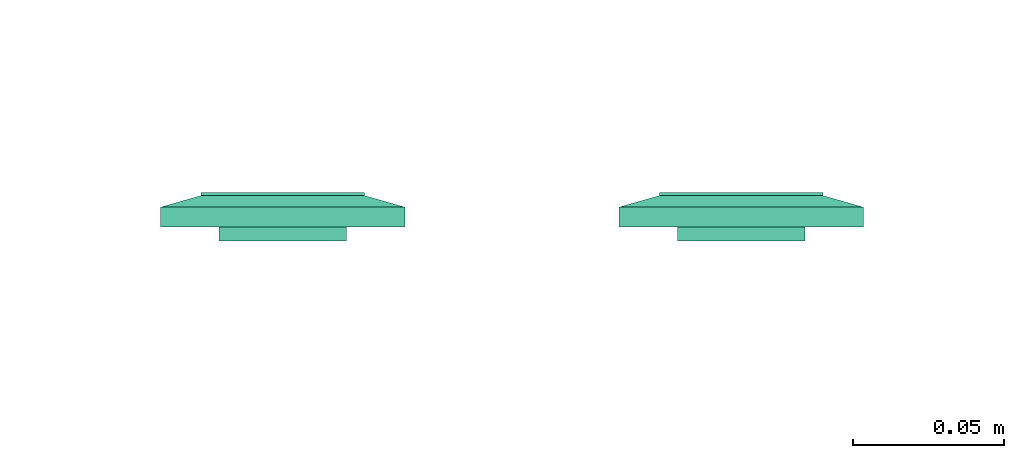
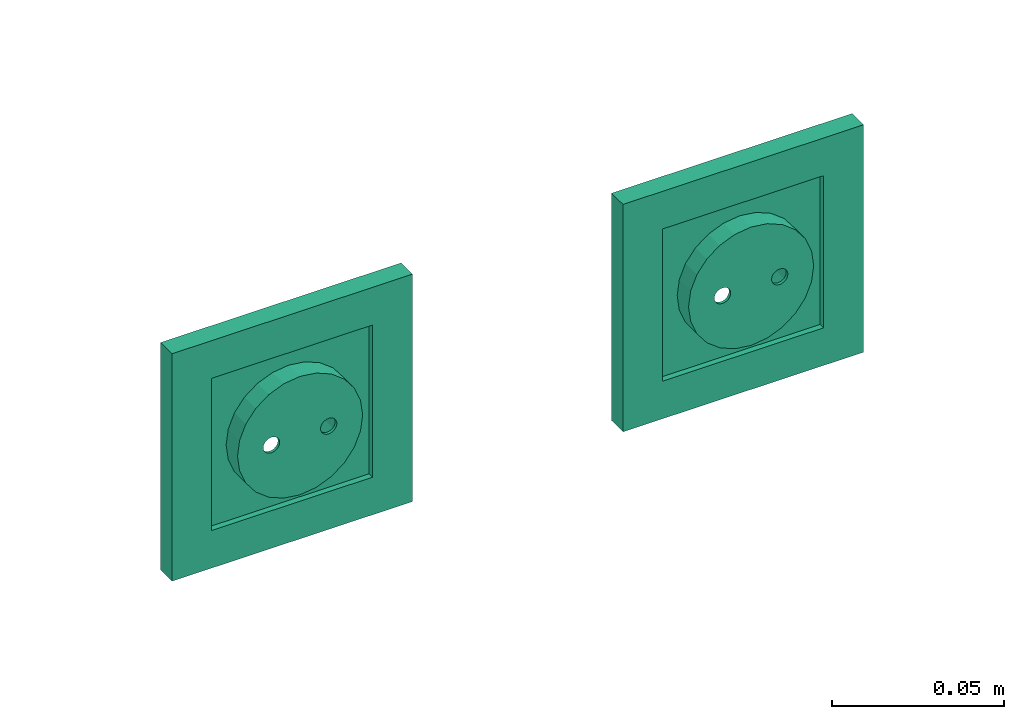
# One storey, part 75 of 146: 2 flow terminals.
"""IFC2X3 building model written with IfcOpenShell, lengths in metres."""

from ifc_helpers import new_model, entity, si_unit, converted_unit, derived_unit, direction, frame, origin, place, context, subcontext, project, spatial, face_set, surface_model, source, transform, mapped, type_object, type_shapes, element, save


model = new_model("IFC2X3")

# Units and contexts
model_context = context("Model", 3, precision=1e-05, world=origin(), true_north=direction((6.12303176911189e-17, 1.0)))
body_context = subcontext(model_context, "Body", "Model", "MODEL_VIEW")
ifc_project = project(units=[si_unit("LENGTHUNIT", "METRE"), si_unit("AREAUNIT", "SQUARE_METRE"), si_unit("VOLUMEUNIT", "CUBIC_METRE"), converted_unit("PLANEANGLEUNIT", "DEGREE", entity("IfcRatioMeasure", 0.0174532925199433), si_unit("PLANEANGLEUNIT", "RADIAN"), dimensions=[0, 0, 0, 0, 0, 0, 0]), si_unit("MASSUNIT", "GRAM", prefix="KILO"), derived_unit("MASSDENSITYUNIT", [(si_unit("MASSUNIT", "GRAM", prefix="KILO"), 1), (si_unit("LENGTHUNIT", "METRE"), -3)]), si_unit("TIMEUNIT", "SECOND"), si_unit("FREQUENCYUNIT", "HERTZ"), si_unit("THERMODYNAMICTEMPERATUREUNIT", "DEGREE_CELSIUS"), derived_unit("THERMALTRANSMITTANCEUNIT", [(si_unit("MASSUNIT", "GRAM", prefix="KILO"), 1), (si_unit("THERMODYNAMICTEMPERATUREUNIT", "KELVIN"), -1), (si_unit("TIMEUNIT", "SECOND"), -3)]), derived_unit("VOLUMETRICFLOWRATEUNIT", [(si_unit("LENGTHUNIT", "METRE"), 3), (si_unit("TIMEUNIT", "SECOND"), -1)]), si_unit("ELECTRICCURRENTUNIT", "AMPERE"), si_unit("ELECTRICVOLTAGEUNIT", "VOLT"), si_unit("POWERUNIT", "WATT"), si_unit("FORCEUNIT", "NEWTON"), si_unit("ILLUMINANCEUNIT", "LUX"), si_unit("LUMINOUSFLUXUNIT", "LUMEN"), si_unit("LUMINOUSINTENSITYUNIT", "CANDELA"), derived_unit("USERDEFINED", [(si_unit("MASSUNIT", "GRAM", prefix="KILO"), -1), (si_unit("LENGTHUNIT", "METRE"), -2), (si_unit("TIMEUNIT", "SECOND"), 3), (si_unit("LUMINOUSFLUXUNIT", "LUMEN"), 1)]), derived_unit("LINEARVELOCITYUNIT", [(si_unit("LENGTHUNIT", "METRE"), 1), (si_unit("TIMEUNIT", "SECOND"), -1)]), si_unit("PRESSUREUNIT", "PASCAL"), derived_unit("USERDEFINED", [(si_unit("LENGTHUNIT", "METRE"), -2), (si_unit("MASSUNIT", "GRAM", prefix="KILO"), 1), (si_unit("TIMEUNIT", "SECOND"), -2)])], contexts=[model_context])

# Site, building, storey
site_placement = place(None, origin())
site = spatial("IfcSite", under=ifc_project, at=site_placement, Name="Default", CompositionType="ELEMENT")
building_placement = place(site_placement, origin())
building = spatial("IfcBuilding", under=site, at=building_placement, CompositionType="ELEMENT")
storey_placement = place(building_placement, origin())
storey = spatial("IfcBuildingStorey", under=building, at=storey_placement, Name="S01", CompositionType="ELEMENT", Elevation=0.0)

# Flow terminals
light_fixture_type = type_object("IfcLightFixtureType", Name="IP20 ONDULEE", PredefinedType="NOTDEFINED")
shared_shape = source(origin(), body_context, "Body", "SurfaceModel", [
    surface_model("IfcFaceBasedSurfaceModel", [(-0.00225000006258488, 0.0127499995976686, 0.00949633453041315), (0.0, 0.0104999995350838, 0.00949633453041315), (0.0, 0.0115376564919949, 0.0101656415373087), (0.0, 0.0139623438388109, 0.0101656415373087), (0.0, 0.0144589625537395, 0.00984531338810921), (0.0, 0.0121178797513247, 0.0102778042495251), (0.0, 0.0133821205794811, 0.0102778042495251), (0.0, 0.0127499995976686, 0.010399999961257), (0.0, 0.0149999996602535, 0.00949633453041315), (0.00225000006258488, 0.0127499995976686, 0.00949633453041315), (0.0, 0.0110410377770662, 0.00984531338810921), (0.0, 0.0127499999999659, 0.00949633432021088), (0.00225000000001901, 0.0127499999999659, 0.00949633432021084), (0.00217333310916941, 0.0121676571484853, 0.00949633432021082), (0.00194855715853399, 0.0116249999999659, 0.00949633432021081), (0.00159099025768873, 0.0111590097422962, 0.00949633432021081), (0.001125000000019, 0.010801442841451, 0.00949633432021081), (0.00058234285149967, 0.0105766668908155, 0.00949633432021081), (0.0, 0.0104999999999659, 0.00949633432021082), (-0.000582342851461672, 0.0105766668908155, 0.00949633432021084), (-0.001124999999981, 0.010801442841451, 0.00949633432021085), (-0.00159099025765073, 0.0111590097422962, 0.00949633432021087), (-0.00194855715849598, 0.011624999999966, 0.00949633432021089), (-0.0021733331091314, 0.0121676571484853, 0.00949633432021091), (-0.00224999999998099, 0.012749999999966, 0.00949633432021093), (-0.00217333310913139, 0.0133323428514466, 0.00949633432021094), (-0.00194855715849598, 0.013874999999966, 0.00949633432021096), (-0.00159099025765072, 0.0143409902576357, 0.00949633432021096), (-0.00112499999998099, 0.0146985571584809, 0.00949633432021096), (-0.00058234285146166, 0.0149233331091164, 0.00949633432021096), (0.0, 0.0149999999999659, 0.00949633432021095), (0.000582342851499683, 0.0149233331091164, 0.00949633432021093), (0.00112500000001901, 0.0146985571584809, 0.00949633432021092), (0.00159099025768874, 0.0143409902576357, 0.00949633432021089), (0.001948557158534, 0.0138749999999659, 0.00949633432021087), (0.00217333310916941, 0.0133323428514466, 0.00949633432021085), (0.00225000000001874, 0.0127499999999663, -0.00360000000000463), (0.00217333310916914, 0.0121676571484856, -0.00360000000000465), (0.00194855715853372, 0.0116249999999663, -0.00360000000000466), (0.00159099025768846, 0.0111590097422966, -0.00360000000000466), (0.00112500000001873, 0.0108014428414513, -0.00360000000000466), (0.000582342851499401, 0.0105766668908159, -0.00360000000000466), (0.0, 0.0104999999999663, -0.00360000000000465), (-0.000582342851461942, 0.0105766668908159, -0.00360000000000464), (-0.00112499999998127, 0.0108014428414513, -0.00360000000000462), (-0.001590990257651, 0.0111590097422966, -0.0036000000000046), (-0.00194855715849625, 0.0116249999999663, -0.00360000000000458), (-0.00217333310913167, 0.0121676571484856, -0.00360000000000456), (-0.00224999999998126, 0.0127499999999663, -0.00360000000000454), (-0.00217333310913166, 0.013332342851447, -0.00360000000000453), (-0.00194855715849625, 0.0138749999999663, -0.00360000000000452), (-0.00159099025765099, 0.014340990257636, -0.00360000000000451), (-0.00112499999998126, 0.0146985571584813, -0.00360000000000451), (-0.000582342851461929, 0.0149233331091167, -0.00360000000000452), (0.0, 0.0149999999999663, -0.00360000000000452), (0.000582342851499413, 0.0149233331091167, -0.00360000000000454), (0.00112500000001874, 0.0146985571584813, -0.00360000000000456), (0.00159099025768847, 0.014340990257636, -0.00360000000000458), (0.00194855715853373, 0.0138749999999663, -0.0036000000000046), (0.00217333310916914, 0.013332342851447, -0.00360000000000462), (0.0270000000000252, 0.026999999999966, 0.0113999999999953), (-0.0269999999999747, 0.026999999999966, 0.0113999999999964), (-0.0269999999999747, -0.0270000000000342, 0.0113999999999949), (0.0270000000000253, -0.0270000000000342, 0.0113999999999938), (-0.0199999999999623, 0.0, 0.0113999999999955), (-0.0193185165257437, -0.00517638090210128, 0.0113999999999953), (-0.0173205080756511, -0.0100000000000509, 0.0113999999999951), (-0.0141421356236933, -0.0141421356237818, 0.011399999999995), (-0.00999999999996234, -0.0173205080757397, 0.0113999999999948), (-0.00517638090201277, -0.0193185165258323, 0.0113999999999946), (0.0, -0.0200000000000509, 0.0113999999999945), (0.00517638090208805, -0.0193185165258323, 0.0113999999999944), (0.0100000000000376, -0.0173205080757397, 0.0113999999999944), (0.0141421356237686, -0.0141421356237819, 0.0113999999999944), (0.0173205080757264, -0.010000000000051, 0.0113999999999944), (0.0193185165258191, -0.00517638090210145, 0.0113999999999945), (0.0200000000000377, 0.0, 0.0113999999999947), (0.0193185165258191, 0.00517638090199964, 0.0113999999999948), (0.0173205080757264, 0.0099999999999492, 0.011399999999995), (0.0141421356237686, 0.0141421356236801, 0.0113999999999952), (0.0100000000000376, 0.0173205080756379, 0.0113999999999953), (0.00517638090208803, 0.0193185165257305, 0.0113999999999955), (0.0, 0.0199999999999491, 0.0113999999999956), (-0.00517638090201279, 0.0193185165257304, 0.0113999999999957), (-0.00999999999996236, 0.0173205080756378, 0.0113999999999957), (-0.0141421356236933, 0.01414213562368, 0.0113999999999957), (-0.0173205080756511, 0.00999999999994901, 0.0113999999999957), (-0.0193185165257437, 0.00517638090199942, 0.0113999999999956), (0.0270000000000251, 0.0269999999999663, 0.00199999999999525), (0.0270000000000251, -0.0270000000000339, 0.00199999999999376), (-0.0269999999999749, -0.0270000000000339, 0.00199999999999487), (-0.0269999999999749, 0.0269999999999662, 0.00199999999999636), (0.0210000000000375, 0.0, 0.00199999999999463), (0.0202844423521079, -0.00543519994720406, 0.00199999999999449), (0.0181865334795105, -0.0105000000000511, 0.0019999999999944), (0.0148492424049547, -0.0148492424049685, 0.00199999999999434), (0.0105000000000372, -0.0181865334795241, 0.00199999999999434), (0.0054351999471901, -0.0202844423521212, 0.00199999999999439), (0.0, -0.0210000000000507, 0.00199999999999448), (-0.00543519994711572, -0.020284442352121, 0.00199999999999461), (-0.0104999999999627, -0.0181865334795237, 0.00199999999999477), (-0.0148492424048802, -0.014849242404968, 0.00199999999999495), (-0.0181865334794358, -0.0105000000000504, 0.00199999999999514), (-0.020284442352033, -0.00543519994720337, 0.00199999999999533), (-0.0209999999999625, 0.0, 0.00199999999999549), (-0.0202844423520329, 0.0054351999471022, 0.00199999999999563), (-0.0181865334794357, 0.0104999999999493, 0.00199999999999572), (-0.01484924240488, 0.0148492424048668, 0.00199999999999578), (-0.0104999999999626, 0.0181865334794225, 0.00199999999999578), (-0.00543519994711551, 0.0202844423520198, 0.00199999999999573), (0.0, 0.0209999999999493, 0.00199999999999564), (0.00543519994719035, 0.0202844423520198, 0.00199999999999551), (0.0105000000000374, 0.0181865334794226, 0.00199999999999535), (0.0148492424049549, 0.0148492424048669, 0.00199999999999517), (0.0181865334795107, 0.0104999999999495, 0.00199999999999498), (0.0202844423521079, 0.00543519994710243, 0.00199999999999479), (0.0200000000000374, 0.0, -0.00360000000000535), (0.0193185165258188, -0.00517638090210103, -0.00360000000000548), (0.0173205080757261, -0.0100000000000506, -0.00360000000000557), (0.0141421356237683, -0.0141421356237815, -0.00360000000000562), (0.0100000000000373, -0.0173205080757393, -0.00360000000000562), (0.00517638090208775, -0.0193185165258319, -0.00360000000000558), (0.0, -0.0200000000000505, -0.00360000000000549), (-0.00517638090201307, -0.0193185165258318, -0.00360000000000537), (-0.00999999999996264, -0.0173205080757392, -0.00360000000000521), (-0.0141421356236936, -0.0141421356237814, -0.00360000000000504), (-0.0173205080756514, -0.0100000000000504, -0.00360000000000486), (-0.019318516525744, -0.00517638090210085, -0.00360000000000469), (-0.0199999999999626, 0.0, -0.00360000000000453), (-0.0193185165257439, 0.00517638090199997, -0.0036000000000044), (-0.0173205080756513, 0.00999999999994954, -0.00360000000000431), (-0.0141421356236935, 0.0141421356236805, -0.00360000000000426), (-0.00999999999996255, 0.0173205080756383, -0.00360000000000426), (-0.00517638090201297, 0.0193185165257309, -0.0036000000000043), (0.0, 0.0199999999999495, -0.00360000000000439), (0.00517638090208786, 0.0193185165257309, -0.00360000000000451), (0.0100000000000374, 0.0173205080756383, -0.00360000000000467), (0.0141421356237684, 0.0141421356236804, -0.00360000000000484), (0.0173205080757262, 0.0099999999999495, -0.00360000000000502), (0.0193185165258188, 0.00517638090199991, -0.00360000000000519), (-0.0123499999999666, 0.0, -0.00360000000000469), (-0.0122562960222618, -0.000711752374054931, -0.00360000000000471), (-0.0119815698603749, -0.00137500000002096, -0.00360000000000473), (-0.0115445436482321, -0.00194454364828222, -0.00360000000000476), (-0.0109749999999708, -0.00238156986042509, -0.00360000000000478), (-0.0103117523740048, -0.00265629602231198, -0.0036000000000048), (-0.00959999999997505, -0.00275000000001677, -0.00360000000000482), (-0.0088882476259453, -0.00265629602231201, -0.00360000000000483), (-0.00822499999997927, -0.00238156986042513, -0.00360000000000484), (-0.00765545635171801, -0.00194454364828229, -0.00360000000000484), (-0.00721843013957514, -0.00137500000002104, -0.00360000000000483), (-0.00694370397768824, -0.000711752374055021, -0.00360000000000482), (-0.00684999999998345, 0.0, -0.0036000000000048), (-0.00694370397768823, 0.000711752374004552, -0.00360000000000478), (-0.00721843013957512, 0.00137499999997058, -0.00360000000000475), (-0.00765545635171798, 0.00194454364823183, -0.00360000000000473), (-0.00822499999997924, 0.00238156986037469, -0.0036000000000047), (-0.00888824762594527, 0.00265629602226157, -0.00360000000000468), (-0.00959999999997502, 0.00274999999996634, -0.00360000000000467), (-0.0103117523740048, 0.00265629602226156, -0.00360000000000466), (-0.0109749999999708, 0.00238156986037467, -0.00360000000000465), (-0.011544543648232, 0.00194454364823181, -0.00360000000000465), (-0.0119815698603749, 0.00137499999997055, -0.00360000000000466), (-0.0122562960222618, 0.000711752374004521, -0.00360000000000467), (0.00685000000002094, 0.0, -0.00360000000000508), (0.0069437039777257, -0.00071175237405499, -0.0036000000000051), (0.00721843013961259, -0.00137500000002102, -0.00360000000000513), (0.00765545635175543, -0.00194454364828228, -0.00360000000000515), (0.00822500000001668, -0.00238156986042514, -0.00360000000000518), (0.00888824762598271, -0.00265629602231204, -0.0036000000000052), (0.00960000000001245, -0.00275000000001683, -0.00360000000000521), (0.0103117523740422, -0.00265629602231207, -0.00360000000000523), (0.0109750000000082, -0.00238156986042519, -0.00360000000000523), (0.0115445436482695, -0.00194454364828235, -0.00360000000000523), (0.0119815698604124, -0.0013750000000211, -0.00360000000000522), (0.0122562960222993, -0.00071175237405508, -0.00360000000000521), (0.012350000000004, 0.0, -0.00360000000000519), (0.0122562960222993, 0.000711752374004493, -0.00360000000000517), (0.0119815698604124, 0.00137499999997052, -0.00360000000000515), (0.0115445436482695, 0.00194454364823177, -0.00360000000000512), (0.0109750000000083, 0.00238156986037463, -0.0036000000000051), (0.0103117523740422, 0.00265629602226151, -0.00360000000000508), (0.00960000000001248, 0.00274999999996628, -0.00360000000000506), (0.00888824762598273, 0.0026562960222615, -0.00360000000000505), (0.0082250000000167, 0.00238156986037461, -0.00360000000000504), (0.00765545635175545, 0.00194454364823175, -0.00360000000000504), (0.0072184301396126, 0.00137499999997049, -0.00360000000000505), (0.00694370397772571, 0.000711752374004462, -0.00360000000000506), (0.0210000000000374, 0.0, -0.00460000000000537), (0.0202844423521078, -0.00543519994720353, -0.00460000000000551), (0.0181865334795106, -0.0105000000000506, -0.0046000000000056), (0.0148492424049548, -0.0148492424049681, -0.00460000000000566), (0.0105000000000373, -0.0181865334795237, -0.00460000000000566), (0.00543519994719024, -0.0202844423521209, -0.00460000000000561), (0.0, -0.0210000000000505, -0.00460000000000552), (-0.00543519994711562, -0.0202844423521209, -0.00460000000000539), (-0.0104999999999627, -0.0181865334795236, -0.00460000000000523), (-0.0148492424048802, -0.0148492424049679, -0.00460000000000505), (-0.0181865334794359, -0.0105000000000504, -0.00460000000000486), (-0.0202844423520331, -0.00543519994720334, -0.00460000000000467), (-0.0209999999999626, 0.0, -0.00460000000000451), (-0.020284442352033, 0.00543519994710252, -0.00460000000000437), (-0.0181865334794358, 0.0104999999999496, -0.00460000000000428), (-0.0148492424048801, 0.0148492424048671, -0.00460000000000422), (-0.0104999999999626, 0.0181865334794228, -0.00460000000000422), (-0.00543519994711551, 0.02028444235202, -0.00460000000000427), (0.0, 0.0209999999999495, -0.00460000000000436), (0.00543519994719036, 0.02028444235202, -0.00460000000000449), (0.0105000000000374, 0.0181865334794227, -0.00460000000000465), (0.0148492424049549, 0.014849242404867, -0.00460000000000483), (0.0181865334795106, 0.0104999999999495, -0.00460000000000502), (0.0202844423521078, 0.00543519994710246, -0.00460000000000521), (-0.00684999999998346, 0.0, -0.0046000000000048), (-0.00694370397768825, 0.000711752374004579, -0.00460000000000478), (-0.00721843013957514, 0.00137499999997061, -0.00460000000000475), (-0.007655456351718, 0.00194454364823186, -0.00460000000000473), (-0.00822499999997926, 0.00238156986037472, -0.0046000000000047), (-0.00888824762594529, 0.0026562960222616, -0.00460000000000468), (-0.00959999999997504, 0.00274999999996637, -0.00460000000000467), (-0.0103117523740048, 0.00265629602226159, -0.00460000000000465), (-0.0109749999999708, 0.0023815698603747, -0.00460000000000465), (-0.0115445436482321, 0.00194454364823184, -0.00460000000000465), (-0.0119815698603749, 0.00137499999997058, -0.00460000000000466), (-0.0122562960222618, 0.000711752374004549, -0.00460000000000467), (-0.0123499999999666, 0.0, -0.00460000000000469), (-0.0122562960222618, -0.000711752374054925, -0.00460000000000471), (-0.0119815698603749, -0.00137500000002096, -0.00460000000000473), (-0.0115445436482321, -0.00194454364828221, -0.00460000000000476), (-0.0109749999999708, -0.00238156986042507, -0.00460000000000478), (-0.0103117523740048, -0.00265629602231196, -0.0046000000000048), (-0.00959999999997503, -0.00275000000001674, -0.00460000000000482), (-0.00888824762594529, -0.00265629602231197, -0.00460000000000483), (-0.00822499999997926, -0.00238156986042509, -0.00460000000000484), (-0.007655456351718, -0.00194454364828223, -0.00460000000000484), (-0.00721843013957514, -0.00137500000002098, -0.00460000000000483), (-0.00694370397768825, -0.000711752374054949, -0.00460000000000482), (0.012350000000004, 0.0, -0.00460000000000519), (0.0122562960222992, 0.000711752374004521, -0.00460000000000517), (0.0119815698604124, 0.00137499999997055, -0.00460000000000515), (0.0115445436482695, 0.0019445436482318, -0.00460000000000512), (0.0109750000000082, 0.00238156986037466, -0.0046000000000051), (0.0103117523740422, 0.00265629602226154, -0.00460000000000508), (0.00960000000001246, 0.00274999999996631, -0.00460000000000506), (0.00888824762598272, 0.00265629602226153, -0.00460000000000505), (0.00822500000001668, 0.00238156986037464, -0.00460000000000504), (0.00765545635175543, 0.00194454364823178, -0.00460000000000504), (0.00721843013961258, 0.00137499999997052, -0.00460000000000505), (0.00694370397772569, 0.00071175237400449, -0.00460000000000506), (0.00685000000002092, 0.0, -0.00460000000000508), (0.00694370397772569, -0.000711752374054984, -0.0046000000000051), (0.00721843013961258, -0.00137500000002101, -0.00460000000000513), (0.00765545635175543, -0.00194454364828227, -0.00460000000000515), (0.00822500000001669, -0.00238156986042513, -0.00460000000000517), (0.00888824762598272, -0.00265629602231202, -0.0046000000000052), (0.00960000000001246, -0.0027500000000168, -0.00460000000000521), (0.0103117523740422, -0.00265629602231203, -0.00460000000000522), (0.0109750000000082, -0.00238156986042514, -0.00460000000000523), (0.0115445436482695, -0.00194454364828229, -0.00460000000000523), (0.0119815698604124, -0.00137500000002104, -0.00460000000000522), (0.0122562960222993, -0.000711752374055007, -0.00460000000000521), (0.040350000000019, 0.0403499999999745, 0.00659999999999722), (0.040350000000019, -0.0403500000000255, 0.00659999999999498), (-0.0403499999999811, -0.0403500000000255, 0.00659999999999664), (-0.0403499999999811, 0.0403499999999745, 0.00659999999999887), (0.027000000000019, 0.0269999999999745, 0.00659999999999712), (-0.0269999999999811, 0.0269999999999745, 0.00659999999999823), (-0.026999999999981, -0.0270000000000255, 0.00659999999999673), (0.027000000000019, -0.0270000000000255, 0.00659999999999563), (0.027000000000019, 0.0269999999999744, 0.0103999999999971), (-0.026999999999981, 0.0269999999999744, 0.0103999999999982), (-0.026999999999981, -0.0270000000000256, 0.0103999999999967), (0.027000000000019, -0.0270000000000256, 0.0103999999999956), (0.040350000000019, 0.0403499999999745, 0.00659999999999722), (0.040350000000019, -0.0403500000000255, 0.00659999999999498), (-0.0403499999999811, -0.0403500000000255, 0.00659999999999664), (-0.0403499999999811, 0.0403499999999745, 0.00659999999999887), (-0.0269999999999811, 0.0269999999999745, 0.00659999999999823), (-0.0269999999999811, -0.0270000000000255, 0.00659999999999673), (0.0270000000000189, -0.0270000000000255, 0.00659999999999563), (0.0270000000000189, 0.0269999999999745, 0.00659999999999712), (0.0403500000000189, 0.0403499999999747, 0.0), (0.0403500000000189, -0.0403500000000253, 0.0), (-0.0403499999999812, -0.0403500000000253, 0.0), (-0.0403499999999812, 0.0403499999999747, 0.0), (0.0270000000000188, 0.0269999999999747, 0.0), (-0.0269999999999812, 0.0269999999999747, 0.0), (-0.0269999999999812, -0.0270000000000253, 0.0), (0.0270000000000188, -0.0270000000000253, 0.0)], [face_set([[[0, 1, 2]], [[3, 4, 2, 5]], [[6, 3, 5, 7]], [[2, 4, 0]], [[4, 8, 0]], [[3, 9, 8]], [[1, 9, 10]], [[2, 3, 6, 7]], [[3, 10, 9]], [[2, 10, 3]], [[11, 1, 0, 8]], [[11, 8, 9, 1]]]), face_set([[[12, 13, 14, 15, 16, 17, 18, 19, 20, 21, 22, 23, 24, 25, 26, 27, 28, 29, 30, 31, 32, 33, 34, 35]], [[36, 37, 38, 39, 40, 41, 42, 43, 44, 45, 46, 47, 48, 49, 50, 51, 52, 53, 54, 55, 56, 57, 58, 59]], [[48, 47, 23, 24]], [[47, 46, 22, 23]], [[45, 44, 20, 21]], [[46, 45, 21, 22]], [[44, 43, 19, 20]], [[18, 19, 43, 42]], [[42, 41, 17, 18]], [[41, 40, 16, 17]], [[39, 38, 14, 15]], [[40, 39, 15, 16]], [[38, 37, 13, 14]], [[12, 13, 37, 36]], [[36, 59, 35, 12]], [[59, 58, 34, 35]], [[57, 56, 32, 33]], [[58, 57, 33, 34]], [[56, 55, 31, 32]], [[30, 31, 55, 54]], [[54, 53, 29, 30]], [[53, 52, 28, 29]], [[51, 50, 26, 27]], [[52, 51, 27, 28]], [[50, 49, 25, 26]], [[24, 25, 49, 48]]]), face_set([[[60, 61, 62, 63], [64, 65, 66, 67, 68, 69, 70, 71, 72, 73, 74, 75, 76, 77, 78, 79, 80, 81, 82, 83, 84, 85, 86, 87]], [[88, 89, 90, 91], [92, 93, 94, 95, 96, 97, 98, 99, 100, 101, 102, 103, 104, 105, 106, 107, 108, 109, 110, 111, 112, 113, 114, 115]], [[61, 60, 88, 91]], [[62, 61, 91, 90]], [[63, 62, 90, 89]], [[60, 63, 89, 88]], [[116, 117, 118, 119, 120, 121, 122, 123, 124, 125, 126, 127, 128, 129, 130, 131, 132, 133, 134, 135, 136, 137, 138, 139], [140, 141, 142, 143, 144, 145, 146, 147, 148, 149, 150, 151, 152, 153, 154, 155, 156, 157, 158, 159, 160, 161, 162, 163], [164, 165, 166, 167, 168, 169, 170, 171, 172, 173, 174, 175, 176, 177, 178, 179, 180, 181, 182, 183, 184, 185, 186, 187]], [[64, 128, 127, 65]], [[65, 127, 126, 66]], [[67, 125, 124, 68]], [[66, 126, 125, 67]], [[68, 124, 123, 69]], [[122, 70, 69, 123]], [[70, 122, 121, 71]], [[71, 121, 120, 72]], [[73, 119, 118, 74]], [[72, 120, 119, 73]], [[74, 118, 117, 75]], [[116, 76, 75, 117]], [[76, 116, 139, 77]], [[77, 139, 138, 78]], [[79, 137, 136, 80]], [[78, 138, 137, 79]], [[80, 136, 135, 81]], [[134, 82, 81, 135]], [[82, 134, 133, 83]], [[83, 133, 132, 84]], [[84, 132, 131, 85]], [[85, 131, 130, 86]], [[130, 129, 87, 86]], [[64, 87, 129, 128]], [[188, 189, 190, 191, 192, 193, 194, 195, 196, 197, 198, 199, 200, 201, 202, 203, 204, 205, 206, 207, 208, 209, 210, 211], [212, 213, 214, 215, 216, 217, 218, 219, 220, 221, 222, 223, 224, 225, 226, 227, 228, 229, 230, 231, 232, 233, 234, 235], [236, 237, 238, 239, 240, 241, 242, 243, 244, 245, 246, 247, 248, 249, 250, 251, 252, 253, 254, 255, 256, 257, 258, 259]], [[200, 199, 103, 104]], [[199, 198, 102, 103]], [[197, 196, 100, 101]], [[198, 197, 101, 102]], [[196, 195, 99, 100]], [[98, 99, 195, 194]], [[194, 193, 97, 98]], [[193, 192, 96, 97]], [[191, 190, 94, 95]], [[192, 191, 95, 96]], [[190, 189, 93, 94]], [[92, 93, 189, 188]], [[188, 211, 115, 92]], [[211, 210, 114, 115]], [[209, 208, 112, 113]], [[210, 209, 113, 114]], [[208, 207, 111, 112]], [[110, 111, 207, 206]], [[206, 205, 109, 110]], [[205, 204, 108, 109]], [[203, 202, 106, 107]], [[204, 203, 107, 108]], [[202, 201, 105, 106]], [[104, 105, 201, 200]], [[141, 225, 226, 142]], [[140, 224, 225, 141]], [[144, 228, 229, 145]], [[143, 227, 228, 144]], [[142, 226, 227, 143]], [[230, 146, 145, 229]], [[149, 233, 232, 148]], [[148, 232, 231, 147]], [[152, 212, 235, 151]], [[151, 235, 234, 150]], [[150, 234, 233, 149]], [[146, 230, 231, 147]], [[154, 214, 213, 153]], [[153, 213, 212, 152]], [[157, 217, 216, 156]], [[156, 216, 215, 155]], [[155, 215, 214, 154]], [[218, 158, 157, 217]], [[160, 220, 221, 161]], [[159, 219, 220, 160]], [[163, 223, 224, 140]], [[162, 222, 223, 163]], [[161, 221, 222, 162]], [[158, 218, 219, 159]], [[166, 250, 249, 165]], [[165, 249, 248, 164]], [[169, 253, 252, 168]], [[168, 252, 251, 167]], [[167, 251, 250, 166]], [[254, 170, 169, 253]], [[172, 256, 257, 173]], [[171, 255, 256, 172]], [[175, 259, 236, 176]], [[174, 258, 259, 175]], [[173, 257, 258, 174]], [[170, 254, 255, 171]], [[177, 237, 238, 178]], [[176, 236, 237, 177]], [[180, 240, 241, 181]], [[179, 239, 240, 180]], [[178, 238, 239, 179]], [[242, 182, 181, 241]], [[185, 245, 244, 184]], [[184, 244, 243, 183]], [[164, 248, 247, 187]], [[187, 247, 246, 186]], [[186, 246, 245, 185]], [[182, 242, 243, 183]]]), face_set([[[260, 261, 262, 263], [264, 265, 266, 267]], [[260, 268, 269, 263]], [[263, 269, 270, 262]], [[262, 270, 271, 261]], [[261, 271, 268, 260]], [[264, 265, 269, 268]], [[265, 266, 270, 269]], [[266, 267, 271, 270]], [[268, 271, 267, 264]]]), face_set([[[272, 273, 274, 275], [276, 277, 278, 279]], [[280, 281, 282, 283], [284, 285, 286, 287]], [[275, 272, 280, 283]], [[274, 275, 283, 282]], [[273, 274, 282, 281]], [[272, 273, 281, 280]], [[284, 285, 276, 279]], [[285, 286, 277, 276]], [[286, 287, 278, 277]], [[279, 278, 287, 284]]])]),
])
type_shapes(light_fixture_type, [shared_shape])
for number, where, z_axis, x_axis in (
    (1, (61.2468633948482, -193.177069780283, 0.320000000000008), (0.0, 1.0, 0.0), (-1.0, 0.0, 0.0)),
    (2, (61.0954891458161, -193.177069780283, 0.320000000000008), (0.0, 1.0, 0.0), (-1.0, 0.0, 0.0)),
):
    element("IfcFlowTerminal", number, at=place(storey_placement, frame(where, z_axis=z_axis, x_axis=x_axis)), inside=storey, type_object=light_fixture_type, Name="INT Prise de courant:IP20 ONDULEE", ObjectType="INT Prise de courant:IP20 ONDULEE", context=body_context, shape_type="MappedRepresentation", body=[
        mapped(shared_shape, transform((0.0, 0.0, 0.0), scale=1.0)),
    ])

save(model, "model.ifc")
